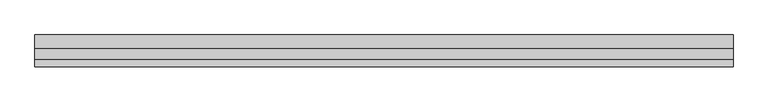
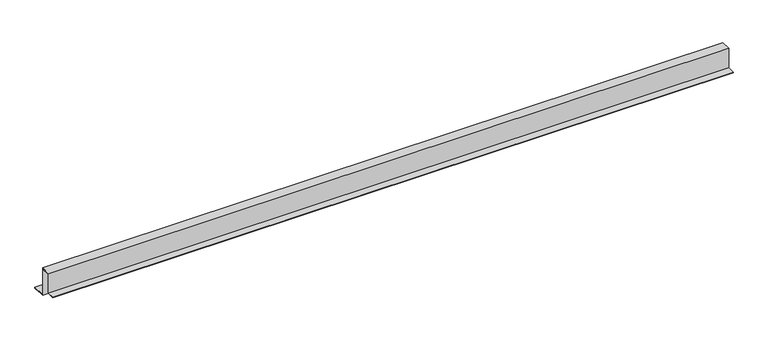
"""IFC4 building model written with IfcOpenShell, lengths in millimetres: proxy geometry, АК7_1 бок Обрамление оконного_дверного проема : АК7_1 бок Обрамление оконного_дверного проема."""

from ifc_helpers import new_model, si_unit, frame, origin, place, context, project, spatial, polyline, outline, extrude, source, transform, mapped, element, save


def generic_models_23c99c47(model_context):
    return source(origin(), model_context, "Body", "SweptSolid", [
        extrude(outline(polyline([(12.5, 25.0), (42.5, 25.0), (42.5, 22.0), (27.5, 22.0), (27.5, 23.0), (41.5, 23.0), (41.5, 24.0), (13.5, 24.0), (13.5, -36.9999552), (-10.5, -36.9999552), (-10.5, -35.9999552), (12.5, -35.9999552), (12.5, 25.0)])), frame((0.0, 0.0, 0.0), z_axis=(1.0, 0.0, 0.0), x_axis=(0.0, 1.0, 0.0)), (0.0, 0.0, 1.0), 2024.9962708),
        extrude(outline(polyline([(42.5, -60.0), (82.5, -60.0), (82.5, -63.0), (62.5, -63.0), (62.5, -62.0), (81.5, -62.0), (81.5, -61.0), (41.5, -61.0), (41.5, 21.0), (17.5, 21.0), (17.5, 22.0), (42.5, 22.0), (42.5, -60.0)])), frame((0.0, 0.0, 0.0), z_axis=(1.0, 0.0, 0.0), x_axis=(0.0, 1.0, 0.0)), (0.0, 0.0, 1.0), 2024.9962708),
    ])


if __name__ == "__main__":
    model = new_model("IFC4")
    model_context = context("Model", 3, world=origin())
    ifc_project = project(units=[si_unit("LENGTHUNIT", "METRE", prefix="MILLI")], contexts=[model_context])
    site = spatial("IfcSite", under=ifc_project)
    building = spatial("IfcBuilding", under=site)
    placement = place(None, origin())
    generic_models_shape = generic_models_23c99c47(model_context)
    element("IfcBuildingElementProxy", 1, Name="АК7_1 бок Обрамление оконного_дверного проема : АК7_1 бок Обрамление оконного_дверного проема", ObjectType="АК7_1 бок Обрамление оконного_дверного проема : АК7_1 бок Обрамление оконного_дверного проема", at=placement, inside=building, context=model_context, shape_type="MappedRepresentation", body=[
        mapped(generic_models_shape, transform((0.0, 0.0, 0.0), x_axis=(1.0, 0.0, 0.0), y_axis=(0.0, 1.0, 0.0), z_axis=(0.0, 0.0, 1.0))),
    ])
    save(model, "model.ifc")
